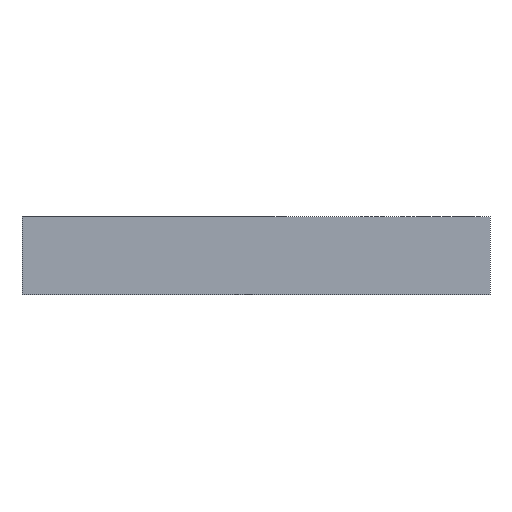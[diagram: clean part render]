
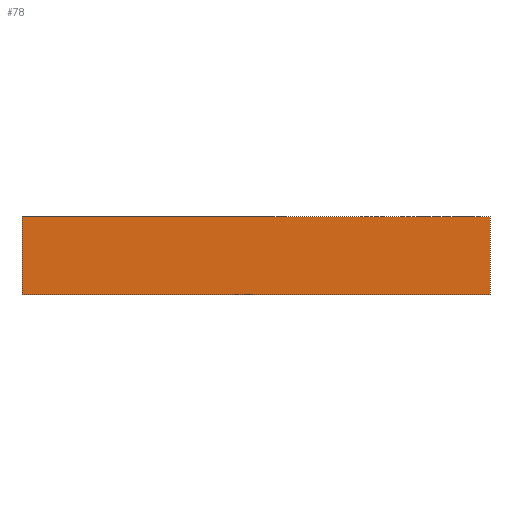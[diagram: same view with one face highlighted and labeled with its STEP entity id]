
A CAD part, left-side view. The second image highlights one B-rep face of the part: STEP entity #78.
In plain terms, the highlighted planar face has unit normal (-1, 0, 0).
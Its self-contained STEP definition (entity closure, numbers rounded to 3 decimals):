
#78=ADVANCED_FACE('',(#200),#199,.T.);
#199=PLANE('',#847);
#200=FACE_OUTER_BOUND('',#848,.T.);
#844=CARTESIAN_POINT('',(-30.,-36.,-11.));
#845=DIRECTION('',(-1.,0.,0.));
#846=DIRECTION('',(0.,0.,1.));
#847=AXIS2_PLACEMENT_3D('',#844,#845,#846);
#848=EDGE_LOOP('',(#1223,#1224,#1225,#1226));
#1223=ORIENTED_EDGE('',*,*,#1533,.T.);
#1224=ORIENTED_EDGE('',*,*,#1462,.T.);
#1225=ORIENTED_EDGE('',*,*,#1495,.F.);
#1226=ORIENTED_EDGE('',*,*,#1500,.T.);
#1462=EDGE_CURVE('',#1616,#1630,#1637,.T.);
#1495=EDGE_CURVE('',#1867,#1630,#1868,.T.);
#1500=EDGE_CURVE('',#1867,#1894,#1901,.T.);
#1533=EDGE_CURVE('',#1894,#1616,#2131,.T.);
#1616=VERTEX_POINT('',#2656);
#1630=VERTEX_POINT('',#2664);
#1637=LINE('',#2668,#2669);
#1867=VERTEX_POINT('',#2831);
#1868=LINE('',#2832,#2833);
#1894=VERTEX_POINT('',#2846);
#1901=LINE('',#2850,#2851);
#2131=LINE('',#3013,#3014);
#2656=CARTESIAN_POINT('',(-30.,-30.,0.));
#2664=CARTESIAN_POINT('',(-30.,30.,0.));
#2668=CARTESIAN_POINT('',(-30.,-30.,0.));
#2669=VECTOR('',#2670,60.);
#2670=DIRECTION('',(0.,1.,0.));
#2831=CARTESIAN_POINT('',(-30.,30.,-10.));
#2832=CARTESIAN_POINT('',(-30.,30.,-10.));
#2833=VECTOR('',#2834,10.);
#2834=DIRECTION('',(0.,0.,1.));
#2846=CARTESIAN_POINT('',(-30.,-30.,-10.));
#2850=CARTESIAN_POINT('',(-30.,30.,-10.));
#2851=VECTOR('',#2852,60.);
#2852=DIRECTION('',(0.,-1.,0.));
#3013=CARTESIAN_POINT('',(-30.,-30.,-10.));
#3014=VECTOR('',#3015,10.);
#3015=DIRECTION('',(0.,0.,1.));
